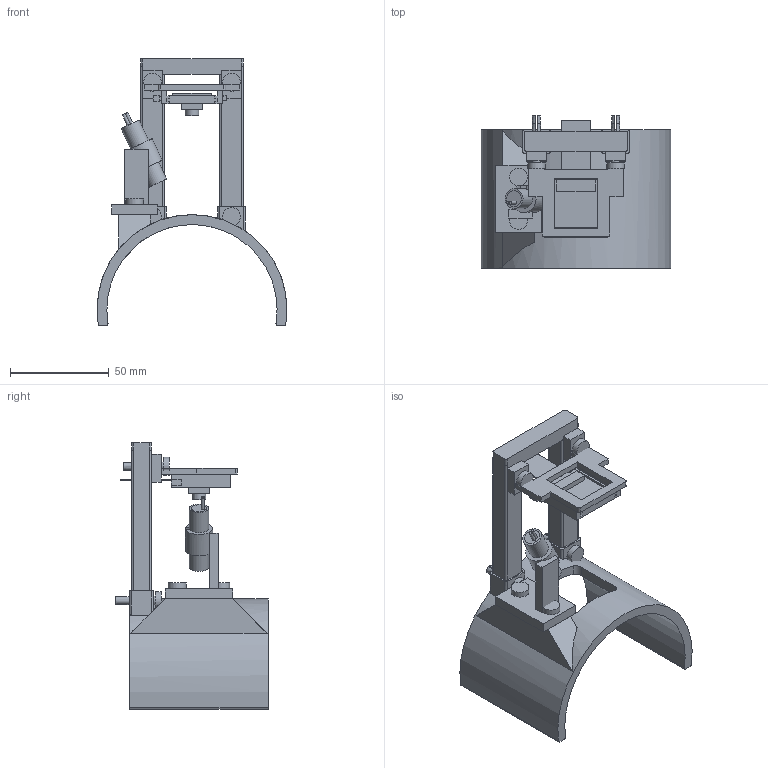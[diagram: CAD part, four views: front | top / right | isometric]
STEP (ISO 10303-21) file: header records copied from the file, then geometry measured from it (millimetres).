
FILE_DESCRIPTION(('Open CASCADE Model'),'2;1');
FILE_NAME('Open CASCADE Shape Model','2026-10-27T14:10:04',('Author'),( 'Open CASCADE'),'Open CASCADE STEP processor 7.9','Open CASCADE 7.9' ,'Unknown');
FILE_SCHEMA(('AUTOMOTIVE_DESIGN { 1 0 10303 214 1 1 1 1 }'));
Length unit declared in the file: millimetre
Products named in the file (17): C_rest_printed_wide; rest; laser_clip; tower; cassette; keeper; base_pin_-20; camera_pin_-20; base_pin_20; camera_pin_20; laser_pin_-11; laser_pin_11; PCB; lens_envelope; connector; laser; ribbon
Assembly tree (16 placements, depth 2):
  C_rest_printed_wide
    rest
    laser_clip
    tower
    cassette
    keeper
    base_pin_-20
    camera_pin_-20
    base_pin_20
    camera_pin_20
    laser_pin_-11
    laser_pin_11
    PCB
    lens_envelope
    connector
    laser
    ribbon
Bounding box: 95.99 x 77 x 134.93 mm (x, y, z)
Volume: 98247.8 mm3; surface area: 53563.4 mm2
Topology: 20 solids, 20 shells, 320 faces, 812 edges, 541 vertices
Faces by surface type: plane 242, cylinder 66, cone 11, torus 1
Full cylindrical faces by diameter (mm): 1.5 x2, 2.8 x1, 3 x1, 4.3 x14, 6.95 x1, 8 x2, 9 x6, 10 x1
Entity records: 21691 total; most frequent: CARTESIAN_POINT 5323, DIRECTION 2845, LINE 1665, VECTOR 1665, ORIENTED_EDGE 1624, PCURVE 1624, DEFINITIONAL_REPRESENTATION 1624, EDGE_CURVE 812
